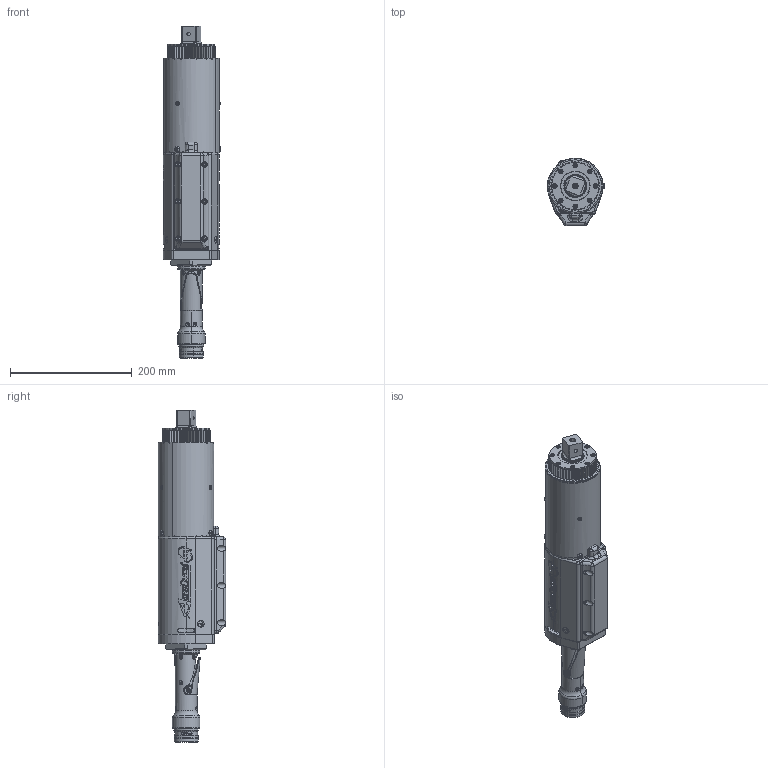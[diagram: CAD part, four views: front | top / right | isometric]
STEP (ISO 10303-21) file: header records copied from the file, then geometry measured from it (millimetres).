
FILE_DESCRIPTION (( 'STEP AP214' ), '1' );
FILE_NAME ('AES4A884200B1, AES4A885000B1.STEP', '2022-08-18T20:26:08', ( '' ), ( '' ), 'SwSTEP 2.0', 'SolidWorks 2022', '' );
FILE_SCHEMA (( 'AUTOMOTIVE_DESIGN' ));
Length unit declared in the file: inch
Products named in the file (1): AES4A884200B1, AES4A885000B1
Bounding box: 93.88 x 110.49 x 545.62 mm (x, y, z)
Surface area: 259638.6 mm2 (no closed solid volume)
Topology: 0 solids, 131 shells, 1634 faces, 6029 edges, 4390 vertices
Faces by surface type: cylinder 487, plane 410, bspline 399, cone 165, torus 161, sphere 12
Entity records: 106266 total; most frequent: CARTESIAN_POINT 39784, ORIENTED_EDGE 9072, DIRECTION 7946, EDGE_CURVE 6023, VERTEX_POINT 4390, AXIS2_PLACEMENT_3D 2903, VECTOR 2140, LINE 2140
